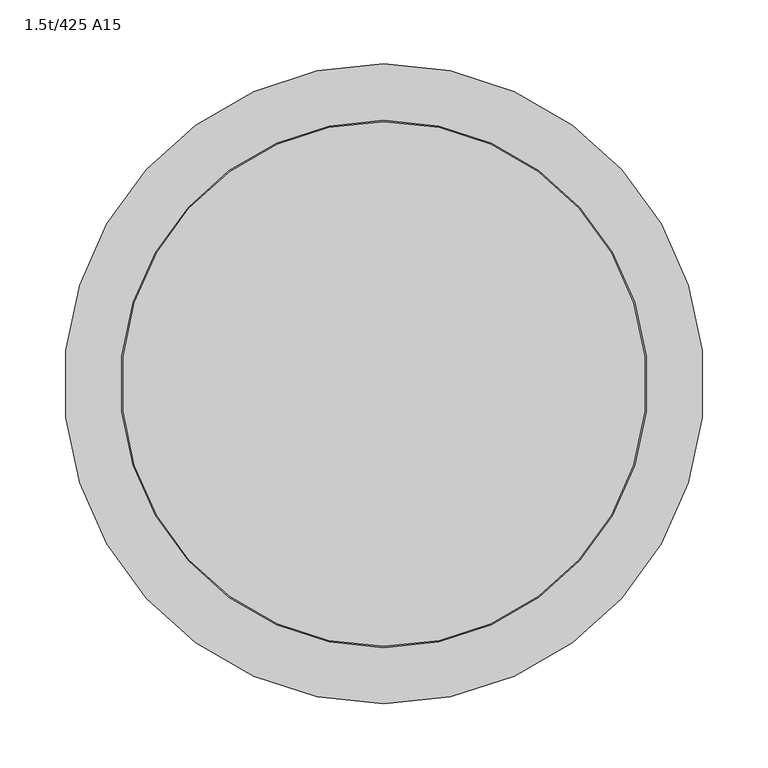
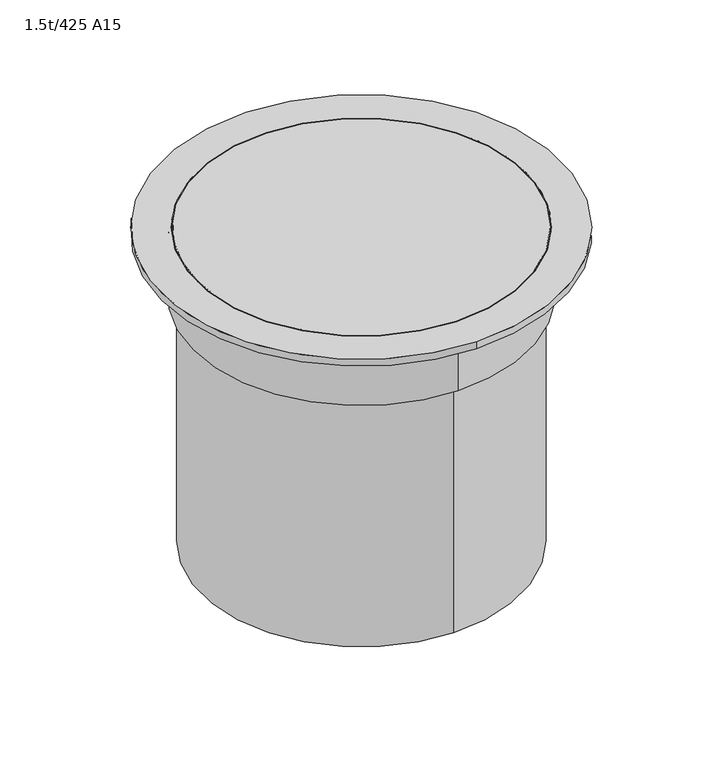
"""IFC4 building model written with IfcOpenShell, lengths in millimetres: valve geometry, Pipelife - Studnia PRO - Teleskop 425 : 1.5t/425 A15."""

from ifc_helpers import new_model, si_unit, point, frame, origin, origin_with_axes, origin_2d, place, context, project, spatial, polyline, circle_curve, trimmed, segment, composite_curve, outline, extrude, source, transform, mapped, element, save
from ifc_brep_helpers import plane_surface, cylinder_surface, revolved_surface, advanced_brep


def valve_1_5t_425_a15_512f01ac(model_context):
    return source(origin(), model_context, "Body", "SolidModel", [
        extrude(outline(composite_curve([segment(trimmed(circle_curve(origin_2d(), 205.0), [point((0.0, 205.0))], [point((0.0, -205.0))], False, "CARTESIAN"), True, "CONTINUOUS"), segment(trimmed(circle_curve(origin_2d(), 205.0), [point((0.0, -205.0))], [point((0.0, 205.0))], False, "CARTESIAN"), True, "CONTINUOUS")], self_intersect=False)), frame((0.0, 0.0, 402.0), z_axis=(0.0, 0.0, 1.0), x_axis=(1.0, 0.0, 0.0)), (0.0, 0.0, 1.0), 13.0),
        advanced_brep(
        [(0.0, 210.0, 406.0), (0.0, -210.0, 406.0), (0.0, -206.0, 406.0), (0.0, 206.0, 406.0), (0.0, 210.0, 326.0), (0.0, -210.0, 326.0), (0.0, 191.5, 326.0), (0.0, -191.5, 326.0), (0.0, 191.5, 402.0), (0.0, -191.5, 402.0), (0.0, 206.0, 402.0), (0.0, -206.0, 402.0)],
        [
            (0, 1, circle_curve(frame((0.0, 0.0, 406.0), z_axis=(0.0, 0.0, 1.0), x_axis=(0.0, -1.0, 0.0)), 210.0)),
            (1, 0, circle_curve(frame((0.0, 0.0, 406.0), z_axis=(0.0, 0.0, 1.0), x_axis=(0.0, -1.0, 0.0)), 210.0)),
            (2, 3, circle_curve(frame((0.0, 0.0, 406.0), z_axis=(0.0, 0.0, -1.0), x_axis=(0.0, -1.0, 0.0)), 206.0)),
            (3, 2, circle_curve(frame((0.0, 0.0, 406.0), z_axis=(0.0, 0.0, -1.0), x_axis=(0.0, -1.0, 0.0)), 206.0)),
            (4, 5, circle_curve(frame((0.0, 0.0, 326.0), z_axis=(0.0, 0.0, -1.0), x_axis=(0.0, -1.0, 0.0)), 210.0)),
            (5, 4, circle_curve(frame((0.0, 0.0, 326.0), z_axis=(0.0, 0.0, -1.0), x_axis=(0.0, -1.0, 0.0)), 210.0)),
            (6, 7, circle_curve(frame((0.0, 0.0, 326.0), z_axis=(0.0, 0.0, 1.0), x_axis=(0.0, -1.0, 0.0)), 191.5)),
            (7, 6, circle_curve(frame((0.0, 0.0, 326.0), z_axis=(0.0, 0.0, 1.0), x_axis=(0.0, -1.0, 0.0)), 191.5)),
            (0, 4),
            (5, 1),
            (6, 8),
            (8, 9, circle_curve(frame((0.0, 0.0, 402.0), z_axis=(0.0, 0.0, 1.0), x_axis=(0.0, -1.0, 0.0)), 191.5)),
            (9, 7),
            (9, 8, circle_curve(frame((0.0, 0.0, 402.0), z_axis=(0.0, 0.0, 1.0), x_axis=(0.0, -1.0, 0.0)), 191.5)),
            (10, 11, circle_curve(frame((0.0, 0.0, 402.0), z_axis=(0.0, 0.0, 1.0), x_axis=(0.0, -1.0, 0.0)), 206.0)),
            (11, 10, circle_curve(frame((0.0, 0.0, 402.0), z_axis=(0.0, 0.0, 1.0), x_axis=(0.0, -1.0, 0.0)), 206.0)),
            (10, 3),
            (2, 11),
        ],
        [
            plane_surface(frame((0.0, 0.0, 406.0), z_axis=(0.0, 0.0, 1.0), x_axis=(0.0, -1.0, 0.0))),
            plane_surface(frame((0.0, 0.0, 326.0), z_axis=(0.0, 0.0, -1.0), x_axis=(0.0, -1.0, 0.0))),
            cylinder_surface(frame((0.0, 0.0, 406.0), z_axis=(0.0, 0.0, 1.0), x_axis=(0.0, -1.0, 0.0)), 210.0),
            revolved_surface(polyline([(0.0, -191.5, 402.0), (0.0, -191.5, 326.0)]), (0.0, 0.0, 402.0), (0.0, 0.0, 1.0)),
            plane_surface(frame((0.0, 0.0, 402.0), z_axis=(0.0, 0.0, 1.0), x_axis=(0.0, -1.0, 0.0))),
            revolved_surface(polyline([(0.0, -206.0, 406.0), (0.0, -206.0, 402.0)]), (0.0, 0.0, 415.0), (0.0, 0.0, 1.0)),
        ],
        [
            (0, [[1, 2], [3, 4]]),
            (1, [[5, 6], [7, 8]]),
            (2, [[-1, 9, -6, 10]]),
            (2, [[-2, -10, -5, -9]]),
            (3, [[11, 12, 13, -7]]),
            (3, [[-11, -8, -13, 14]]),
            (4, [[15, 16], [-12, -14]]),
            (5, [[-15, 17, -3, 18]]),
            (5, [[-16, -18, -4, -17]]),
        ],
    ),
        extrude(outline(composite_curve([segment(trimmed(circle_curve(origin_2d(), 200.0), [point((0.0, 200.0))], [point((0.0, -200.0))], False, "CARTESIAN"), True, "CONTINUOUS"), segment(trimmed(circle_curve(origin_2d(), 200.0), [point((0.0, -200.0))], [point((0.0, 200.0))], False, "CARTESIAN"), True, "CONTINUOUS")], self_intersect=False), holes=[composite_curve([segment(trimmed(circle_curve(origin_2d(), 191.5), [point((0.0, 191.5))], [point((0.0, -191.5))], True, "CARTESIAN"), True, "CONTINUOUS"), segment(trimmed(circle_curve(origin_2d(), 191.5), [point((0.0, -191.5))], [point((0.0, 191.5))], True, "CARTESIAN"), True, "CONTINUOUS")], self_intersect=False)]), origin_with_axes(), (0.0, 0.0, 1.0), 326.0),
        extrude(outline(composite_curve([segment(trimmed(circle_curve(origin_2d(), 250.0), [point((0.0, 250.0))], [point((0.0, -250.0))], False, "CARTESIAN"), True, "CONTINUOUS"), segment(trimmed(circle_curve(origin_2d(), 250.0), [point((0.0, -250.0))], [point((0.0, 250.0))], False, "CARTESIAN"), True, "CONTINUOUS")], self_intersect=False), holes=[composite_curve([segment(trimmed(circle_curve(origin_2d(), 206.0), [point((0.0, 206.0))], [point((0.0, -206.0))], True, "CARTESIAN"), True, "CONTINUOUS"), segment(trimmed(circle_curve(origin_2d(), 206.0), [point((0.0, -206.0))], [point((0.0, 206.0))], True, "CARTESIAN"), True, "CONTINUOUS")], self_intersect=False)]), frame((0.0, 0.0, 406.0), z_axis=(0.0, 0.0, 1.0), x_axis=(1.0, 0.0, 0.0)), (0.0, 0.0, 1.0), 9.0),
    ])


if __name__ == "__main__":
    model = new_model("IFC4")
    model_context = context("Model", 3, world=origin())
    ifc_project = project(units=[si_unit("LENGTHUNIT", "METRE", prefix="MILLI")], contexts=[model_context])
    site = spatial("IfcSite", under=ifc_project)
    building = spatial("IfcBuilding", under=site)
    placement = place(None, origin())
    valve_1_5t_425_a15_shape = valve_1_5t_425_a15_512f01ac(model_context)
    element("IfcValve", 1, ObjectType="Pipelife - Studnia PRO - Teleskop 425 : 1.5t/425 A15", at=placement, inside=building, context=model_context, shape_type="MappedRepresentation", body=[
        mapped(valve_1_5t_425_a15_shape, transform((0.0, 0.0, 0.0), x_axis=(1.0, 0.0, 0.0), y_axis=(0.0, 1.0, 0.0), z_axis=(0.0, 0.0, 1.0))),
    ])
    save(model, "model.ifc")
